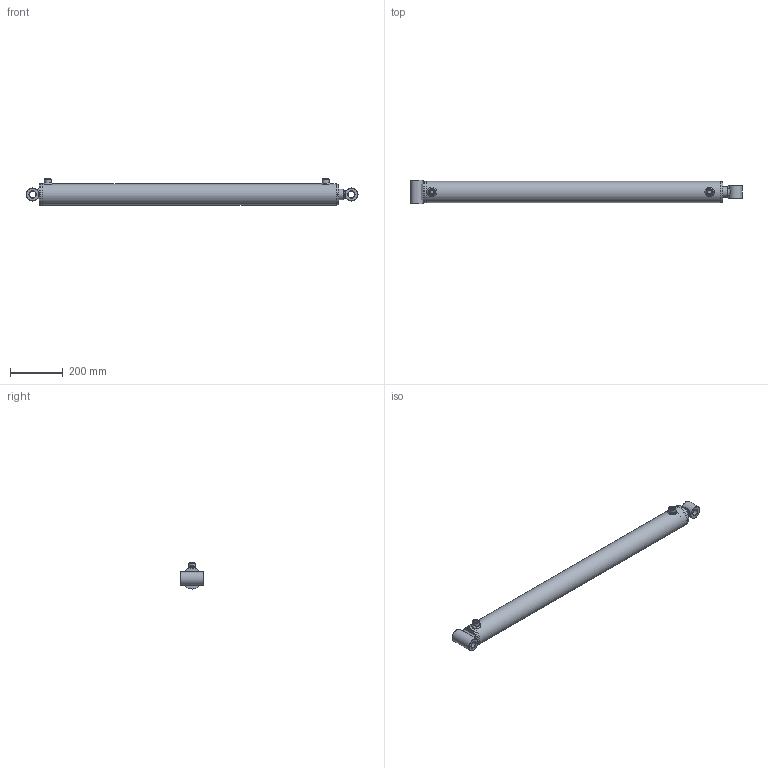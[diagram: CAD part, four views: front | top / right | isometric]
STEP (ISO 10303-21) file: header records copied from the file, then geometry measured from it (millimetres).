
FILE_DESCRIPTION( ( 'Unknown' ), '1' );
FILE_NAME( 'E:/LIBRERIA_3d/CILINDRI/HM2/HM24401000.stp', 'Unknown', ( 'Unknown' ), ( 'Unknown' ), 'PSStep 17.0.49', 'Unknown', ' ' );
FILE_SCHEMA( ( 'AUTOMOTIVE_DESIGN { 1 0 10303 214 1 1 1 1 }' ) );
Length unit declared in the file: millimetre
Products named in the file (28): STL4501000-oa7; Saldatura d'angolo 1-oa5; FTM4501000-oa6; CBSC220600; CT00070027; CG08007040; HM04401000; Saldatura con preparazione 1-oa3; Saldatura d'angolo 1-oa4; CF00070080; CBS0600000; CDB0002720; APG0600000; SBL4041000; Assem1; CB25050050; CB25050090; Saldatura d'angolo 1-oa0; Protrusione 1-oa1; Protrusione 2-oa2
Assembly tree (22 placements, depth 4):
  Saldatura d'angolo 1-oa5
  Saldatura d'angolo 1-oa5
  Saldatura d'angolo 1-oa4
  Saldatura d'angolo 1-oa4
  Assem1
    CB25050050
    CB25050090
    Protrusione 1-oa1
    Protrusione 1-oa1
    Protrusione 2-oa2
    Protrusione 2-oa2
    HM04401000
      Saldatura con preparazione 1-oa3
      Saldatura con preparazione 1-oa3
      CF00070080
      CBS0600000
      CDB0002720
      APG0600000  x2
      SBL4041000
      CG08007040
        CG08007040
      CT00070027
        CT00070027
      STL4501000-oa7
        FTM4501000-oa6
        CBSC220600
Bounding box: 1260 x 90 x 99 mm (x, y, z)
Volume: 3256216.2 mm3; surface area: 821888.2 mm2
Topology: 24 solids, 24 shells, 254 faces, 514 edges, 317 vertices
Faces by surface type: plane 78, cylinder 63, cone 40, torus 37, bspline 36
Full cylindrical faces by diameter (mm): 4.25 x1, 5 x2, 6 x2, 7 x2, 14.95 x2, 16 x2, 16.6 x2, 22 x2, 25.25 x2, 26 x2, 26.4 x1, 27 x5, 33.2 x1, 40 x4, 41 x1, 42 x1, 43 x1, 48.6 x1, 50 x4, 64.18 x2, 65 x1, 68.34 x2, 69.9 x1, 70 x1, 70.3 x1, 70.5 x1, 70.6 x1, 71 x1, 72 x3, 72.5 x1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
Entity records: 14390 total; most frequent: CARTESIAN_POINT 8015, DIRECTION 898, ORIENTED_EDGE 622, EDGE_LOOP 428, AXIS2_PLACEMENT_3D 423, FACE_OUTER_BOUND 346, EDGE_CURVE 311, VERTEX_POINT 266
